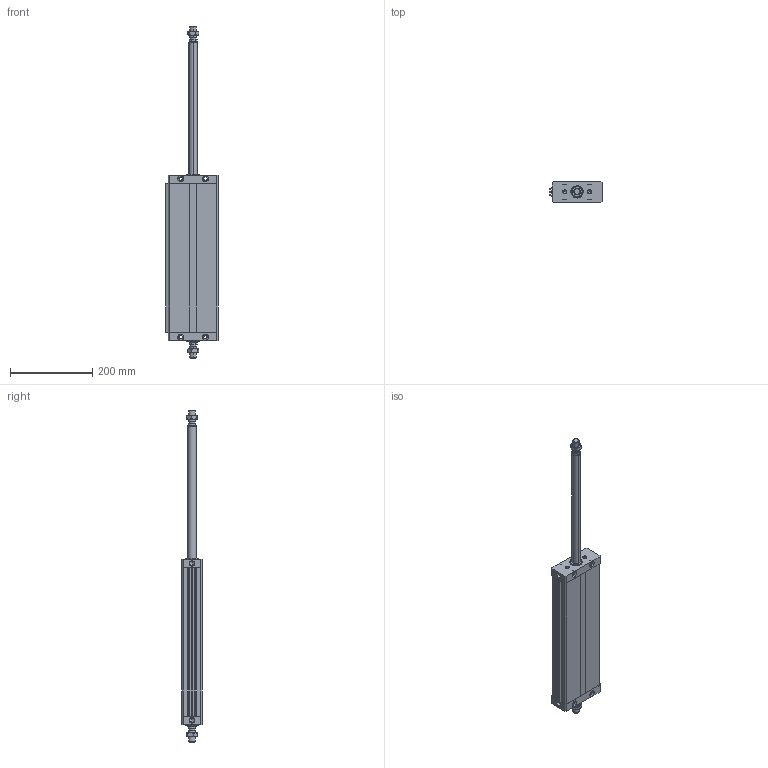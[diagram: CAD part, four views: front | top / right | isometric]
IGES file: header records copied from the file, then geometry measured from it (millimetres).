
Global section: file name: No Iges File Name specified; native system: Autodesk Inventor 2011; preprocessor: AutoDesk Inventor Iges Exporter R2011; author: airolcr1; date: 20101213.153624; units: millimetre
Bounding box: 126.75 x 50 x 806 mm (x, y, z)
Volume: 1549391.3 mm3; surface area: 347223.9 mm2
Topology: 6 solids, 6 shells, 280 faces, 664 edges, 396 vertices
Faces by surface type: bspline 114, plane 98, cone 36, cylinder 18, revolution 14
